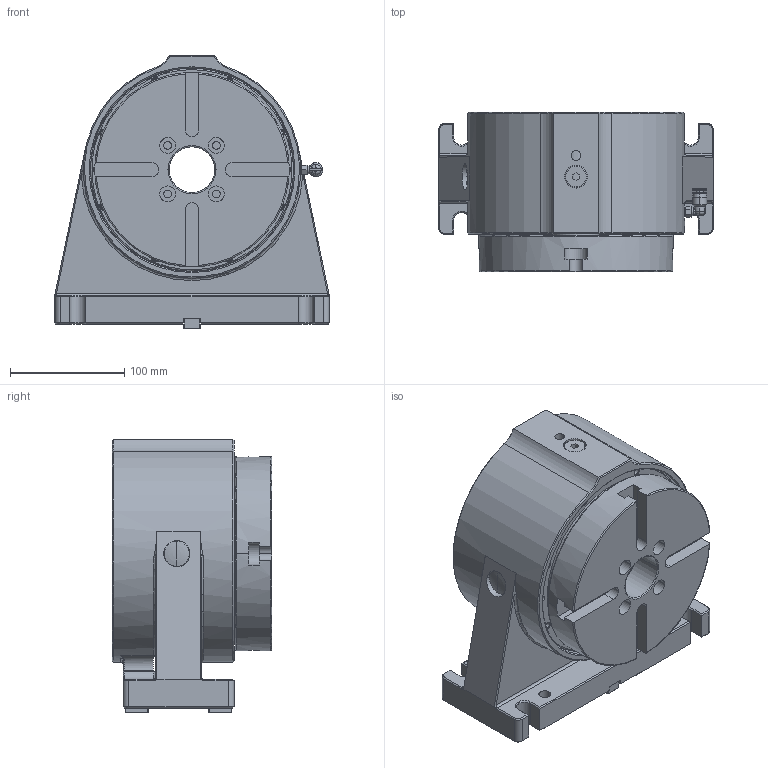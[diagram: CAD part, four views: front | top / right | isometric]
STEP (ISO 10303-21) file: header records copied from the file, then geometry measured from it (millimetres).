
FILE_DESCRIPTION (( 'STEP AP203' ), '1' );
FILE_NAME ('WDS-RS135 喜渡俋夤芞 REV.01.STEP', '2021-02-27T06:47:45', ( '' ), ( '' ), 'SwSTEP 2.0', 'SolidWorks 2018', '' );
FILE_SCHEMA (( 'CONFIG_CONTROL_DESIGN' ));
Length unit declared in the file: centimetre
Products named in the file (1): WDS-RS135 喜渡俋夤芞 REV.01
Bounding box: 240 x 139.5 x 239 mm (x, y, z)
Surface area: 279357.9 mm2 (no closed solid volume)
Topology: 0 solids, 17 shells, 560 faces, 1453 edges, 911 vertices
Faces by surface type: plane 206, cylinder 184, cone 118, torus 45, bspline 7
Entity records: 18303 total; most frequent: CARTESIAN_POINT 4328, DIRECTION 3104, ORIENTED_EDGE 2643, EDGE_CURVE 1449, AXIS2_PLACEMENT_3D 1199, VERTEX_POINT 911, LINE 706, VECTOR 706
